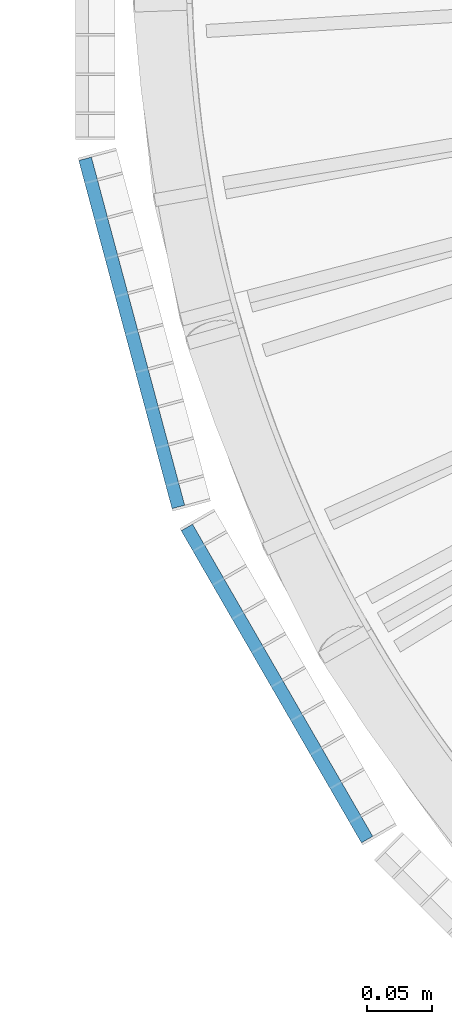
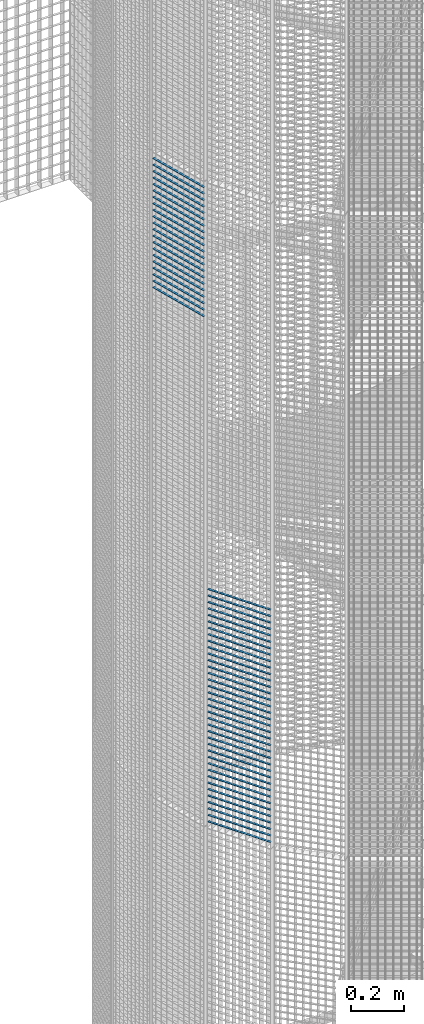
# One storey, part 127 of 1183: 58 beams, 2 elements without a shape of their own.
"""IFC2X3 building model written with IfcOpenShell, lengths in millimetres."""

from ifc_helpers import new_model, si_unit, frame, origin_with_axes, origin_2d_with_axis, place, context, subcontext, project, spatial, rectangle, extrude, material, type_object, element, aggregate, save


model = new_model("IFC2X3")

# Units and contexts
model_context = context("Model", 3, precision=1e-05, world=origin_with_axes())
body_context = subcontext(model_context, "Body", "Model", "MODEL_VIEW")
ifc_project = project(units=[si_unit("LENGTHUNIT", "METRE", prefix="MILLI"), si_unit("AREAUNIT", "SQUARE_METRE"), si_unit("VOLUMEUNIT", "CUBIC_METRE"), si_unit("MASSUNIT", "GRAM", prefix="KILO"), si_unit("TIMEUNIT", "SECOND"), si_unit("PLANEANGLEUNIT", "RADIAN"), si_unit("SOLIDANGLEUNIT", "STERADIAN"), si_unit("THERMODYNAMICTEMPERATUREUNIT", "DEGREE_CELSIUS"), si_unit("LUMINOUSINTENSITYUNIT", "LUMEN")], contexts=[model_context])

# Site, building, storey
site_placement = place(None, origin_with_axes())
site = spatial("IfcSite", under=ifc_project, at=site_placement, Name="Undefined", CompositionType="ELEMENT")
building_placement = place(site_placement, origin_with_axes())
building = spatial("IfcBuilding", under=site, at=building_placement, Name="Undefined", CompositionType="ELEMENT")
storey_placement = place(building_placement, origin_with_axes())
storey = spatial("IfcBuildingStorey", under=building, at=storey_placement, Name="Undefined", CompositionType="ELEMENT", Elevation=0.0)

# Assembly, beams
assembly_1_placement = place(storey_placement, origin_with_axes())
assembly_1 = element("IfcElementAssembly", 1, at=assembly_1_placement, inside=storey, Name="BORDURE", AssemblyPlace="NOTDEFINED", PredefinedType="NOTDEFINED")
ifc_material = material(Name="STEEL/S235JR")
beam_type = type_object("IfcBeamType", Name="PL2*10", PredefinedType="NOTDEFINED")
beam_1_placement = place(assembly_1_placement, frame((-1033.29996828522, -437.231955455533, 3720.0), z_axis=(-0.866025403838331, -0.499999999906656, 0.0), x_axis=(0.499999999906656, -0.866025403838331, 0.0)))
beam_1 = element("IfcBeam", 2, at=beam_1_placement, type_object=beam_type, material=ifc_material, Name="ENTRETOISE", context=body_context, shape_type="SweptSolid", body=[
    extrude(rectangle(XDim=2.0, YDim=10.0, at=origin_2d_with_axis()), frame((275.999999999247, 9.09494701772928e-13, 1.53210777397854e-14), z_axis=(-1.0, 0.0, 0.0), x_axis=(0.0, -1.0, 0.0)), (0.0, 0.0, 1.0), 276.0),
])
beam_2_placement = place(assembly_1_placement, frame((-1033.29996828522, -437.231955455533, 3690.0), z_axis=(-0.866025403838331, -0.499999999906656, 0.0), x_axis=(0.499999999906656, -0.866025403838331, 0.0)))
beam_2 = element("IfcBeam", 3, at=beam_2_placement, type_object=beam_type, material=ifc_material, Name="ENTRETOISE", context=body_context, shape_type="SweptSolid", body=[
    extrude(rectangle(XDim=2.0, YDim=10.0, at=origin_2d_with_axis()), frame((275.999999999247, 9.09494701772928e-13, 1.53210777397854e-14), z_axis=(-1.0, 0.0, 0.0), x_axis=(0.0, -1.0, 0.0)), (0.0, 0.0, 1.0), 276.0),
])
beam_3_placement = place(assembly_1_placement, frame((-1033.29996828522, -437.231955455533, 3750.0), z_axis=(-0.866025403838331, -0.499999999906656, 0.0), x_axis=(0.499999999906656, -0.866025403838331, 0.0)))
beam_3 = element("IfcBeam", 4, at=beam_3_placement, type_object=beam_type, material=ifc_material, Name="ENTRETOISE", context=body_context, shape_type="SweptSolid", body=[
    extrude(rectangle(XDim=2.0, YDim=10.0, at=origin_2d_with_axis()), frame((275.999999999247, 9.09494701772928e-13, 1.53210777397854e-14), z_axis=(-1.0, 0.0, 0.0), x_axis=(0.0, -1.0, 0.0)), (0.0, 0.0, 1.0), 276.0),
])
beam_4_placement = place(assembly_1_placement, frame((-1033.29996828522, -437.231955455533, 3660.0), z_axis=(-0.866025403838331, -0.499999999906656, 0.0), x_axis=(0.499999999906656, -0.866025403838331, 0.0)))
beam_4 = element("IfcBeam", 5, at=beam_4_placement, type_object=beam_type, material=ifc_material, Name="ENTRETOISE", context=body_context, shape_type="SweptSolid", body=[
    extrude(rectangle(XDim=2.0, YDim=10.0, at=origin_2d_with_axis()), frame((275.999999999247, 9.09494701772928e-13, 1.53210777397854e-14), z_axis=(-1.0, 0.0, 0.0), x_axis=(0.0, -1.0, 0.0)), (0.0, 0.0, 1.0), 276.0),
])
beam_5_placement = place(assembly_1_placement, frame((-1033.29996828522, -437.231955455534, 3630.0), z_axis=(-0.866025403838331, -0.499999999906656, 0.0), x_axis=(0.499999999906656, -0.866025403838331, 0.0)))
beam_5 = element("IfcBeam", 6, at=beam_5_placement, type_object=beam_type, material=ifc_material, Name="ENTRETOISE", context=body_context, shape_type="SweptSolid", body=[
    extrude(rectangle(XDim=2.0, YDim=10.0, at=origin_2d_with_axis()), frame((275.999999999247, 9.09494701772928e-13, 1.53210777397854e-14), z_axis=(-1.0, 0.0, 0.0), x_axis=(0.0, -1.0, 0.0)), (0.0, 0.0, 1.0), 276.0),
])
beam_6_placement = place(assembly_1_placement, frame((-1033.29996828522, -437.231955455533, 3780.0), z_axis=(-0.866025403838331, -0.499999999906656, 0.0), x_axis=(0.499999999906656, -0.866025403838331, 0.0)))
beam_6 = element("IfcBeam", 7, at=beam_6_placement, type_object=beam_type, material=ifc_material, Name="ENTRETOISE", context=body_context, shape_type="SweptSolid", body=[
    extrude(rectangle(XDim=2.0, YDim=10.0, at=origin_2d_with_axis()), frame((275.999999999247, 9.09494701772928e-13, 1.53210777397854e-14), z_axis=(-1.0, 0.0, 0.0), x_axis=(0.0, -1.0, 0.0)), (0.0, 0.0, 1.0), 276.0),
])
beam_7_placement = place(assembly_1_placement, frame((-1033.29996828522, -437.231955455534, 3600.0), z_axis=(-0.866025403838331, -0.499999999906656, 0.0), x_axis=(0.499999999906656, -0.866025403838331, 0.0)))
beam_7 = element("IfcBeam", 8, at=beam_7_placement, type_object=beam_type, material=ifc_material, Name="ENTRETOISE", context=body_context, shape_type="SweptSolid", body=[
    extrude(rectangle(XDim=2.0, YDim=10.0, at=origin_2d_with_axis()), frame((275.999999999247, 9.09494701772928e-13, 1.53210777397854e-14), z_axis=(-1.0, 0.0, 0.0), x_axis=(0.0, -1.0, 0.0)), (0.0, 0.0, 1.0), 276.0),
])
beam_8_placement = place(assembly_1_placement, frame((-1033.29996828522, -437.231955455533, 3810.0), z_axis=(-0.866025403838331, -0.499999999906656, 0.0), x_axis=(0.499999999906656, -0.866025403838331, 0.0)))
beam_8 = element("IfcBeam", 9, at=beam_8_placement, type_object=beam_type, material=ifc_material, Name="ENTRETOISE", context=body_context, shape_type="SweptSolid", body=[
    extrude(rectangle(XDim=2.0, YDim=10.0, at=origin_2d_with_axis()), frame((275.999999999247, 9.09494701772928e-13, 1.53210777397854e-14), z_axis=(-1.0, 0.0, 0.0), x_axis=(0.0, -1.0, 0.0)), (0.0, 0.0, 1.0), 276.0),
])
beam_9_placement = place(assembly_1_placement, frame((-1033.29996828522, -437.231955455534, 3570.0), z_axis=(-0.866025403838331, -0.499999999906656, 0.0), x_axis=(0.499999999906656, -0.866025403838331, 0.0)))
beam_9 = element("IfcBeam", 10, at=beam_9_placement, type_object=beam_type, material=ifc_material, Name="ENTRETOISE", context=body_context, shape_type="SweptSolid", body=[
    extrude(rectangle(XDim=2.0, YDim=10.0, at=origin_2d_with_axis()), frame((275.999999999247, 9.09494701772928e-13, 1.53210777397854e-14), z_axis=(-1.0, 0.0, 0.0), x_axis=(0.0, -1.0, 0.0)), (0.0, 0.0, 1.0), 276.0),
])
beam_10_placement = place(assembly_1_placement, frame((-1033.29996828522, -437.231955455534, 3540.0), z_axis=(-0.866025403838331, -0.499999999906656, 0.0), x_axis=(0.499999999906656, -0.866025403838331, 0.0)))
beam_10 = element("IfcBeam", 11, at=beam_10_placement, type_object=beam_type, material=ifc_material, Name="ENTRETOISE", context=body_context, shape_type="SweptSolid", body=[
    extrude(rectangle(XDim=2.0, YDim=10.0, at=origin_2d_with_axis()), frame((275.999999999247, 9.09494701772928e-13, 1.53210777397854e-14), z_axis=(-1.0, 0.0, 0.0), x_axis=(0.0, -1.0, 0.0)), (0.0, 0.0, 1.0), 276.0),
])
beam_11_placement = place(assembly_1_placement, frame((-1033.29996828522, -437.231955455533, 3840.0), z_axis=(-0.866025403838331, -0.499999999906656, 0.0), x_axis=(0.499999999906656, -0.866025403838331, 0.0)))
beam_11 = element("IfcBeam", 12, at=beam_11_placement, type_object=beam_type, material=ifc_material, Name="ENTRETOISE", context=body_context, shape_type="SweptSolid", body=[
    extrude(rectangle(XDim=2.0, YDim=10.0, at=origin_2d_with_axis()), frame((275.999999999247, 9.09494701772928e-13, 1.53210777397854e-14), z_axis=(-1.0, 0.0, 0.0), x_axis=(0.0, -1.0, 0.0)), (0.0, 0.0, 1.0), 276.0),
])
beam_12_placement = place(assembly_1_placement, frame((-1033.29996828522, -437.231955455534, 3510.0), z_axis=(-0.866025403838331, -0.499999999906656, 0.0), x_axis=(0.499999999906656, -0.866025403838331, 0.0)))
beam_12 = element("IfcBeam", 13, at=beam_12_placement, type_object=beam_type, material=ifc_material, Name="ENTRETOISE", context=body_context, shape_type="SweptSolid", body=[
    extrude(rectangle(XDim=2.0, YDim=10.0, at=origin_2d_with_axis()), frame((275.999999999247, 9.09494701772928e-13, 1.53210777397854e-14), z_axis=(-1.0, 0.0, 0.0), x_axis=(0.0, -1.0, 0.0)), (0.0, 0.0, 1.0), 276.0),
])
beam_13_placement = place(assembly_1_placement, frame((-1033.29996828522, -437.231955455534, 3480.0), z_axis=(-0.866025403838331, -0.499999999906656, 0.0), x_axis=(0.499999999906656, -0.866025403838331, 0.0)))
beam_13 = element("IfcBeam", 14, at=beam_13_placement, type_object=beam_type, material=ifc_material, Name="ENTRETOISE", context=body_context, shape_type="SweptSolid", body=[
    extrude(rectangle(XDim=2.0, YDim=10.0, at=origin_2d_with_axis()), frame((275.999999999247, 9.09494701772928e-13, 1.53210777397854e-14), z_axis=(-1.0, 0.0, 0.0), x_axis=(0.0, -1.0, 0.0)), (0.0, 0.0, 1.0), 276.0),
])
beam_14_placement = place(assembly_1_placement, frame((-1033.29996828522, -437.231955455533, 3870.0), z_axis=(-0.866025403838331, -0.499999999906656, 0.0), x_axis=(0.499999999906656, -0.866025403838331, 0.0)))
beam_14 = element("IfcBeam", 15, at=beam_14_placement, type_object=beam_type, material=ifc_material, Name="ENTRETOISE", context=body_context, shape_type="SweptSolid", body=[
    extrude(rectangle(XDim=2.0, YDim=10.0, at=origin_2d_with_axis()), frame((275.999999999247, 9.09494701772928e-13, 1.53210777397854e-14), z_axis=(-1.0, 0.0, 0.0), x_axis=(0.0, -1.0, 0.0)), (0.0, 0.0, 1.0), 276.0),
])
beam_15_placement = place(assembly_1_placement, frame((-1033.29996828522, -437.231955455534, 3450.0), z_axis=(-0.866025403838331, -0.499999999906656, 0.0), x_axis=(0.499999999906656, -0.866025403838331, 0.0)))
beam_15 = element("IfcBeam", 16, at=beam_15_placement, type_object=beam_type, material=ifc_material, Name="ENTRETOISE", context=body_context, shape_type="SweptSolid", body=[
    extrude(rectangle(XDim=2.0, YDim=10.0, at=origin_2d_with_axis()), frame((275.999999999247, 9.09494701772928e-13, 1.53210777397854e-14), z_axis=(-1.0, 0.0, 0.0), x_axis=(0.0, -1.0, 0.0)), (0.0, 0.0, 1.0), 276.0),
])
beam_16_placement = place(assembly_1_placement, frame((-1033.29996828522, -437.231955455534, 3420.0), z_axis=(-0.866025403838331, -0.499999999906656, 0.0), x_axis=(0.499999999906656, -0.866025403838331, 0.0)))
beam_16 = element("IfcBeam", 17, at=beam_16_placement, type_object=beam_type, material=ifc_material, Name="ENTRETOISE", context=body_context, shape_type="SweptSolid", body=[
    extrude(rectangle(XDim=2.0, YDim=10.0, at=origin_2d_with_axis()), frame((275.999999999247, 9.09494701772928e-13, 1.53210777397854e-14), z_axis=(-1.0, 0.0, 0.0), x_axis=(0.0, -1.0, 0.0)), (0.0, 0.0, 1.0), 276.0),
])
beam_17_placement = place(assembly_1_placement, frame((-1033.29996828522, -437.231955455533, 3900.0), z_axis=(-0.866025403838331, -0.499999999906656, 0.0), x_axis=(0.499999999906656, -0.866025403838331, 0.0)))
beam_17 = element("IfcBeam", 18, at=beam_17_placement, type_object=beam_type, material=ifc_material, Name="ENTRETOISE", context=body_context, shape_type="SweptSolid", body=[
    extrude(rectangle(XDim=2.0, YDim=10.0, at=origin_2d_with_axis()), frame((275.999999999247, 9.09494701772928e-13, 1.53210777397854e-14), z_axis=(-1.0, 0.0, 0.0), x_axis=(0.0, -1.0, 0.0)), (0.0, 0.0, 1.0), 276.0),
])
beam_18_placement = place(assembly_1_placement, frame((-1033.29996828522, -437.231955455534, 3390.0), z_axis=(-0.866025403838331, -0.499999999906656, 0.0), x_axis=(0.499999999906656, -0.866025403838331, 0.0)))
beam_18 = element("IfcBeam", 19, at=beam_18_placement, type_object=beam_type, material=ifc_material, Name="ENTRETOISE", context=body_context, shape_type="SweptSolid", body=[
    extrude(rectangle(XDim=2.0, YDim=10.0, at=origin_2d_with_axis()), frame((275.999999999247, 9.09494701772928e-13, 1.53210777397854e-14), z_axis=(-1.0, 0.0, 0.0), x_axis=(0.0, -1.0, 0.0)), (0.0, 0.0, 1.0), 276.0),
])
beam_19_placement = place(assembly_1_placement, frame((-1033.29996828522, -437.231955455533, 3930.0), z_axis=(-0.866025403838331, -0.499999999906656, 0.0), x_axis=(0.499999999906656, -0.866025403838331, 0.0)))
beam_19 = element("IfcBeam", 20, at=beam_19_placement, type_object=beam_type, material=ifc_material, Name="ENTRETOISE", context=body_context, shape_type="SweptSolid", body=[
    extrude(rectangle(XDim=2.0, YDim=10.0, at=origin_2d_with_axis()), frame((275.999999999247, 9.09494701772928e-13, 1.53210777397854e-14), z_axis=(-1.0, 0.0, 0.0), x_axis=(0.0, -1.0, 0.0)), (0.0, 0.0, 1.0), 276.0),
])
beam_20_placement = place(assembly_1_placement, frame((-1033.29996828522, -437.231955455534, 3360.0), z_axis=(-0.866025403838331, -0.499999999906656, 0.0), x_axis=(0.499999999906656, -0.866025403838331, 0.0)))
beam_20 = element("IfcBeam", 21, at=beam_20_placement, type_object=beam_type, material=ifc_material, Name="ENTRETOISE", context=body_context, shape_type="SweptSolid", body=[
    extrude(rectangle(XDim=2.0, YDim=10.0, at=origin_2d_with_axis()), frame((275.999999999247, 9.09494701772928e-13, 1.53210777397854e-14), z_axis=(-1.0, 0.0, 0.0), x_axis=(0.0, -1.0, 0.0)), (0.0, 0.0, 1.0), 276.0),
])
beam_21_placement = place(assembly_1_placement, frame((-1033.29996828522, -437.231955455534, 3330.0), z_axis=(-0.866025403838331, -0.499999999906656, 0.0), x_axis=(0.499999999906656, -0.866025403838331, 0.0)))
beam_21 = element("IfcBeam", 22, at=beam_21_placement, type_object=beam_type, material=ifc_material, Name="ENTRETOISE", context=body_context, shape_type="SweptSolid", body=[
    extrude(rectangle(XDim=2.0, YDim=10.0, at=origin_2d_with_axis()), frame((275.999999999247, 9.09494701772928e-13, 1.53210777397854e-14), z_axis=(-1.0, 0.0, 0.0), x_axis=(0.0, -1.0, 0.0)), (0.0, 0.0, 1.0), 276.0),
])
beam_22_placement = place(assembly_1_placement, frame((-1033.29996828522, -437.231955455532, 3960.0), z_axis=(-0.866025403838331, -0.499999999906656, 0.0), x_axis=(0.499999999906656, -0.866025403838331, 0.0)))
beam_22 = element("IfcBeam", 23, at=beam_22_placement, type_object=beam_type, material=ifc_material, Name="ENTRETOISE", context=body_context, shape_type="SweptSolid", body=[
    extrude(rectangle(XDim=2.0, YDim=10.0, at=origin_2d_with_axis()), frame((275.999999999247, 9.09494701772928e-13, 1.53210777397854e-14), z_axis=(-1.0, 0.0, 0.0), x_axis=(0.0, -1.0, 0.0)), (0.0, 0.0, 1.0), 276.0),
])
beam_23_placement = place(assembly_1_placement, frame((-1033.29996828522, -437.231955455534, 3300.0), z_axis=(-0.866025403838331, -0.499999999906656, 0.0), x_axis=(0.499999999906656, -0.866025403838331, 0.0)))
beam_23 = element("IfcBeam", 24, at=beam_23_placement, type_object=beam_type, material=ifc_material, Name="ENTRETOISE", context=body_context, shape_type="SweptSolid", body=[
    extrude(rectangle(XDim=2.0, YDim=10.0, at=origin_2d_with_axis()), frame((275.999999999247, 9.09494701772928e-13, 1.53210777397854e-14), z_axis=(-1.0, 0.0, 0.0), x_axis=(0.0, -1.0, 0.0)), (0.0, 0.0, 1.0), 276.0),
])
beam_24_placement = place(assembly_1_placement, frame((-1033.29996828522, -437.231955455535, 3270.0), z_axis=(-0.866025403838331, -0.499999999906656, 0.0), x_axis=(0.499999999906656, -0.866025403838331, 0.0)))
beam_24 = element("IfcBeam", 25, at=beam_24_placement, type_object=beam_type, material=ifc_material, Name="ENTRETOISE", context=body_context, shape_type="SweptSolid", body=[
    extrude(rectangle(XDim=2.0, YDim=10.0, at=origin_2d_with_axis()), frame((275.999999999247, 9.09494701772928e-13, 1.53210777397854e-14), z_axis=(-1.0, 0.0, 0.0), x_axis=(0.0, -1.0, 0.0)), (0.0, 0.0, 1.0), 276.0),
])
beam_25_placement = place(assembly_1_placement, frame((-1033.29996828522, -437.231955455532, 3990.0), z_axis=(-0.866025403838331, -0.499999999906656, 0.0), x_axis=(0.499999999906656, -0.866025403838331, 0.0)))
beam_25 = element("IfcBeam", 26, at=beam_25_placement, type_object=beam_type, material=ifc_material, Name="ENTRETOISE", context=body_context, shape_type="SweptSolid", body=[
    extrude(rectangle(XDim=2.0, YDim=10.0, at=origin_2d_with_axis()), frame((275.999999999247, 9.09494701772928e-13, 1.53210777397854e-14), z_axis=(-1.0, 0.0, 0.0), x_axis=(0.0, -1.0, 0.0)), (0.0, 0.0, 1.0), 276.0),
])
beam_26_placement = place(assembly_1_placement, frame((-1033.29996828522, -437.231955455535, 3240.0), z_axis=(-0.866025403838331, -0.499999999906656, 0.0), x_axis=(0.499999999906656, -0.866025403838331, 0.0)))
beam_26 = element("IfcBeam", 27, at=beam_26_placement, type_object=beam_type, material=ifc_material, Name="ENTRETOISE", context=body_context, shape_type="SweptSolid", body=[
    extrude(rectangle(XDim=2.0, YDim=10.0, at=origin_2d_with_axis()), frame((275.999999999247, 9.09494701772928e-13, 1.53210777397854e-14), z_axis=(-1.0, 0.0, 0.0), x_axis=(0.0, -1.0, 0.0)), (0.0, 0.0, 1.0), 276.0),
])
beam_27_placement = place(assembly_1_placement, frame((-1033.29996828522, -437.231955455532, 4020.0), z_axis=(-0.866025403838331, -0.499999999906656, 0.0), x_axis=(0.499999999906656, -0.866025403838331, 0.0)))
beam_27 = element("IfcBeam", 28, at=beam_27_placement, type_object=beam_type, material=ifc_material, Name="ENTRETOISE", context=body_context, shape_type="SweptSolid", body=[
    extrude(rectangle(XDim=2.0, YDim=10.0, at=origin_2d_with_axis()), frame((275.999999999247, 9.09494701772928e-13, 1.53210777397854e-14), z_axis=(-1.0, 0.0, 0.0), x_axis=(0.0, -1.0, 0.0)), (0.0, 0.0, 1.0), 276.0),
])
beam_28_placement = place(assembly_1_placement, frame((-1033.29996828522, -437.231955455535, 3210.0), z_axis=(-0.866025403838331, -0.499999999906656, 0.0), x_axis=(0.499999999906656, -0.866025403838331, 0.0)))
beam_28 = element("IfcBeam", 29, at=beam_28_placement, type_object=beam_type, material=ifc_material, Name="ENTRETOISE", context=body_context, shape_type="SweptSolid", body=[
    extrude(rectangle(XDim=2.0, YDim=10.0, at=origin_2d_with_axis()), frame((275.999999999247, 9.09494701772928e-13, 1.53210777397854e-14), z_axis=(-1.0, 0.0, 0.0), x_axis=(0.0, -1.0, 0.0)), (0.0, 0.0, 1.0), 276.0),
])
beam_29_placement = place(assembly_1_placement, frame((-1033.29996828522, -437.231955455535, 3180.0), z_axis=(-0.866025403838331, -0.499999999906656, 0.0), x_axis=(0.499999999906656, -0.866025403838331, 0.0)))
beam_29 = element("IfcBeam", 30, at=beam_29_placement, type_object=beam_type, material=ifc_material, Name="ENTRETOISE", context=body_context, shape_type="SweptSolid", body=[
    extrude(rectangle(XDim=2.0, YDim=10.0, at=origin_2d_with_axis()), frame((275.999999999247, 9.09494701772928e-13, 1.53210777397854e-14), z_axis=(-1.0, 0.0, 0.0), x_axis=(0.0, -1.0, 0.0)), (0.0, 0.0, 1.0), 276.0),
])
beam_30_placement = place(assembly_1_placement, frame((-1033.29996828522, -437.231955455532, 4050.0), z_axis=(-0.866025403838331, -0.499999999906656, 0.0), x_axis=(0.499999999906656, -0.866025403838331, 0.0)))
beam_30 = element("IfcBeam", 31, at=beam_30_placement, type_object=beam_type, material=ifc_material, Name="ENTRETOISE", context=body_context, shape_type="SweptSolid", body=[
    extrude(rectangle(XDim=2.0, YDim=10.0, at=origin_2d_with_axis()), frame((275.999999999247, 9.09494701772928e-13, 1.53210777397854e-14), z_axis=(-1.0, 0.0, 0.0), x_axis=(0.0, -1.0, 0.0)), (0.0, 0.0, 1.0), 276.0),
])
beam_31_placement = place(assembly_1_placement, frame((-1033.29996828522, -437.231955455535, 3150.0), z_axis=(-0.866025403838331, -0.499999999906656, 0.0), x_axis=(0.499999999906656, -0.866025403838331, 0.0)))
beam_31 = element("IfcBeam", 32, at=beam_31_placement, type_object=beam_type, material=ifc_material, Name="ENTRETOISE", context=body_context, shape_type="SweptSolid", body=[
    extrude(rectangle(XDim=2.0, YDim=10.0, at=origin_2d_with_axis()), frame((275.999999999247, 9.09494701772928e-13, 1.53210777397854e-14), z_axis=(-1.0, 0.0, 0.0), x_axis=(0.0, -1.0, 0.0)), (0.0, 0.0, 1.0), 276.0),
])
beam_32_placement = place(assembly_1_placement, frame((-1033.29996828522, -437.231955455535, 3120.0), z_axis=(-0.866025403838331, -0.499999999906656, 0.0), x_axis=(0.499999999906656, -0.866025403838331, 0.0)))
beam_32 = element("IfcBeam", 33, at=beam_32_placement, type_object=beam_type, material=ifc_material, Name="ENTRETOISE", context=body_context, shape_type="SweptSolid", body=[
    extrude(rectangle(XDim=2.0, YDim=10.0, at=origin_2d_with_axis()), frame((275.999999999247, 9.09494701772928e-13, 1.53210777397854e-14), z_axis=(-1.0, 0.0, 0.0), x_axis=(0.0, -1.0, 0.0)), (0.0, 0.0, 1.0), 276.0),
])
beam_33_placement = place(assembly_1_placement, frame((-1033.29996828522, -437.231955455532, 4080.0), z_axis=(-0.866025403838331, -0.499999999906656, 0.0), x_axis=(0.499999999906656, -0.866025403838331, 0.0)))
beam_33 = element("IfcBeam", 34, at=beam_33_placement, type_object=beam_type, material=ifc_material, Name="ENTRETOISE", context=body_context, shape_type="SweptSolid", body=[
    extrude(rectangle(XDim=2.0, YDim=10.0, at=origin_2d_with_axis()), frame((275.999999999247, 9.09494701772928e-13, 1.53210777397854e-14), z_axis=(-1.0, 0.0, 0.0), x_axis=(0.0, -1.0, 0.0)), (0.0, 0.0, 1.0), 276.0),
])
beam_34_placement = place(assembly_1_placement, frame((-1033.29996828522, -437.231955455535, 3090.0), z_axis=(-0.866025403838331, -0.499999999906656, 0.0), x_axis=(0.499999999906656, -0.866025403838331, 0.0)))
beam_34 = element("IfcBeam", 35, at=beam_34_placement, type_object=beam_type, material=ifc_material, Name="ENTRETOISE", context=body_context, shape_type="SweptSolid", body=[
    extrude(rectangle(XDim=2.0, YDim=10.0, at=origin_2d_with_axis()), frame((275.999999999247, 9.09494701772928e-13, 1.53210777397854e-14), z_axis=(-1.0, 0.0, 0.0), x_axis=(0.0, -1.0, 0.0)), (0.0, 0.0, 1.0), 276.0),
])
beam_35_placement = place(assembly_1_placement, frame((-1033.29996828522, -437.231955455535, 3060.0), z_axis=(-0.866025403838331, -0.499999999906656, 0.0), x_axis=(0.499999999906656, -0.866025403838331, 0.0)))
beam_35 = element("IfcBeam", 36, at=beam_35_placement, type_object=beam_type, material=ifc_material, Name="ENTRETOISE", context=body_context, shape_type="SweptSolid", body=[
    extrude(rectangle(XDim=2.0, YDim=10.0, at=origin_2d_with_axis()), frame((275.999999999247, 9.09494701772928e-13, 1.53210777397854e-14), z_axis=(-1.0, 0.0, 0.0), x_axis=(0.0, -1.0, 0.0)), (0.0, 0.0, 1.0), 276.0),
])
beam_36_placement = place(assembly_1_placement, frame((-1033.29996828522, -437.231955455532, 4110.0), z_axis=(-0.866025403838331, -0.499999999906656, 0.0), x_axis=(0.499999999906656, -0.866025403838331, 0.0)))
beam_36 = element("IfcBeam", 37, at=beam_36_placement, type_object=beam_type, material=ifc_material, Name="ENTRETOISE", context=body_context, shape_type="SweptSolid", body=[
    extrude(rectangle(XDim=2.0, YDim=10.0, at=origin_2d_with_axis()), frame((275.999999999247, 9.09494701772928e-13, 1.53210777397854e-14), z_axis=(-1.0, 0.0, 0.0), x_axis=(0.0, -1.0, 0.0)), (0.0, 0.0, 1.0), 276.0),
])
beam_37_placement = place(assembly_1_placement, frame((-1033.29996828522, -437.231955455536, 3030.0), z_axis=(-0.866025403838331, -0.499999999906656, 0.0), x_axis=(0.499999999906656, -0.866025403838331, 0.0)))
beam_37 = element("IfcBeam", 38, at=beam_37_placement, type_object=beam_type, material=ifc_material, Name="ENTRETOISE", context=body_context, shape_type="SweptSolid", body=[
    extrude(rectangle(XDim=2.0, YDim=10.0, at=origin_2d_with_axis()), frame((275.999999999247, 9.09494701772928e-13, 1.53210777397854e-14), z_axis=(-1.0, 0.0, 0.0), x_axis=(0.0, -1.0, 0.0)), (0.0, 0.0, 1.0), 276.0),
])
aggregate(assembly_1, [beam_1, beam_2, beam_3, beam_4, beam_5, beam_6, beam_7, beam_8, beam_9, beam_10, beam_11, beam_12, beam_13, beam_14, beam_15, beam_16, beam_17, beam_18, beam_19, beam_20, beam_21, beam_22, beam_23, beam_24, beam_25, beam_26, beam_27, beam_28, beam_29, beam_30, beam_31, beam_32, beam_33, beam_34, beam_35, beam_36, beam_37])

assembly_2_placement = place(storey_placement, origin_with_axes())
assembly_2 = element("IfcElementAssembly", 39, at=assembly_2_placement, inside=storey, Name="BORDURE", AssemblyPlace="NOTDEFINED", PredefinedType="NOTDEFINED")
beam_38_placement = place(assembly_2_placement, frame((-1111.25508286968, -154.895926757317, 5970.0), z_axis=(-0.965925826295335, -0.258819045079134, 0.0), x_axis=(0.258819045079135, -0.965925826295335, 0.0)))
beam_38 = element("IfcBeam", 40, at=beam_38_placement, type_object=beam_type, material=ifc_material, Name="ENTRETOISE", context=body_context, shape_type="SweptSolid", body=[
    extrude(rectangle(XDim=2.0, YDim=10.0, at=origin_2d_with_axis()), frame((275.999999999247, 9.09494701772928e-13, 1.53210777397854e-14), z_axis=(-1.0, 0.0, 0.0), x_axis=(0.0, -1.0, 0.0)), (0.0, 0.0, 1.0), 276.0),
])
beam_39_placement = place(assembly_2_placement, frame((-1111.25508286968, -154.895926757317, 5940.0), z_axis=(-0.965925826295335, -0.258819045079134, 0.0), x_axis=(0.258819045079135, -0.965925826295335, 0.0)))
beam_39 = element("IfcBeam", 41, at=beam_39_placement, type_object=beam_type, material=ifc_material, Name="ENTRETOISE", context=body_context, shape_type="SweptSolid", body=[
    extrude(rectangle(XDim=2.0, YDim=10.0, at=origin_2d_with_axis()), frame((275.999999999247, 9.09494701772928e-13, 1.53210777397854e-14), z_axis=(-1.0, 0.0, 0.0), x_axis=(0.0, -1.0, 0.0)), (0.0, 0.0, 1.0), 276.0),
])
beam_40_placement = place(assembly_2_placement, frame((-1111.25508286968, -154.895926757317, 5910.0), z_axis=(-0.965925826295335, -0.258819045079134, 0.0), x_axis=(0.258819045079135, -0.965925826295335, 0.0)))
beam_40 = element("IfcBeam", 42, at=beam_40_placement, type_object=beam_type, material=ifc_material, Name="ENTRETOISE", context=body_context, shape_type="SweptSolid", body=[
    extrude(rectangle(XDim=2.0, YDim=10.0, at=origin_2d_with_axis()), frame((275.999999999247, 9.09494701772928e-13, 1.53210777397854e-14), z_axis=(-1.0, 0.0, 0.0), x_axis=(0.0, -1.0, 0.0)), (0.0, 0.0, 1.0), 276.0),
])
beam_41_placement = place(assembly_2_placement, frame((-1111.25508286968, -154.895926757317, 5880.0), z_axis=(-0.965925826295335, -0.258819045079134, 0.0), x_axis=(0.258819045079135, -0.965925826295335, 0.0)))
beam_41 = element("IfcBeam", 43, at=beam_41_placement, type_object=beam_type, material=ifc_material, Name="ENTRETOISE", context=body_context, shape_type="SweptSolid", body=[
    extrude(rectangle(XDim=2.0, YDim=10.0, at=origin_2d_with_axis()), frame((275.999999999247, 9.09494701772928e-13, 1.53210777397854e-14), z_axis=(-1.0, 0.0, 0.0), x_axis=(0.0, -1.0, 0.0)), (0.0, 0.0, 1.0), 276.0),
])
beam_42_placement = place(assembly_2_placement, frame((-1111.25508286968, -154.895926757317, 5850.0), z_axis=(-0.965925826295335, -0.258819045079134, 0.0), x_axis=(0.258819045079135, -0.965925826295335, 0.0)))
beam_42 = element("IfcBeam", 44, at=beam_42_placement, type_object=beam_type, material=ifc_material, Name="ENTRETOISE", context=body_context, shape_type="SweptSolid", body=[
    extrude(rectangle(XDim=2.0, YDim=10.0, at=origin_2d_with_axis()), frame((275.999999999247, 9.09494701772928e-13, 1.53210777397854e-14), z_axis=(-1.0, 0.0, 0.0), x_axis=(0.0, -1.0, 0.0)), (0.0, 0.0, 1.0), 276.0),
])
beam_43_placement = place(assembly_2_placement, frame((-1111.25508286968, -154.895926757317, 5820.0), z_axis=(-0.965925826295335, -0.258819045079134, 0.0), x_axis=(0.258819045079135, -0.965925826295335, 0.0)))
beam_43 = element("IfcBeam", 45, at=beam_43_placement, type_object=beam_type, material=ifc_material, Name="ENTRETOISE", context=body_context, shape_type="SweptSolid", body=[
    extrude(rectangle(XDim=2.0, YDim=10.0, at=origin_2d_with_axis()), frame((275.999999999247, 9.09494701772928e-13, 1.53210777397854e-14), z_axis=(-1.0, 0.0, 0.0), x_axis=(0.0, -1.0, 0.0)), (0.0, 0.0, 1.0), 276.0),
])
beam_44_placement = place(assembly_2_placement, frame((-1111.25508286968, -154.895926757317, 5790.0), z_axis=(-0.965925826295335, -0.258819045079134, 0.0), x_axis=(0.258819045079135, -0.965925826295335, 0.0)))
beam_44 = element("IfcBeam", 46, at=beam_44_placement, type_object=beam_type, material=ifc_material, Name="ENTRETOISE", context=body_context, shape_type="SweptSolid", body=[
    extrude(rectangle(XDim=2.0, YDim=10.0, at=origin_2d_with_axis()), frame((275.999999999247, 9.09494701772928e-13, 1.53210777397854e-14), z_axis=(-1.0, 0.0, 0.0), x_axis=(0.0, -1.0, 0.0)), (0.0, 0.0, 1.0), 276.0),
])
beam_45_placement = place(assembly_2_placement, frame((-1111.25508286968, -154.895926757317, 5760.0), z_axis=(-0.965925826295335, -0.258819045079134, 0.0), x_axis=(0.258819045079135, -0.965925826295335, 0.0)))
beam_45 = element("IfcBeam", 47, at=beam_45_placement, type_object=beam_type, material=ifc_material, Name="ENTRETOISE", context=body_context, shape_type="SweptSolid", body=[
    extrude(rectangle(XDim=2.0, YDim=10.0, at=origin_2d_with_axis()), frame((275.999999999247, 9.09494701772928e-13, 1.53210777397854e-14), z_axis=(-1.0, 0.0, 0.0), x_axis=(0.0, -1.0, 0.0)), (0.0, 0.0, 1.0), 276.0),
])
beam_46_placement = place(assembly_2_placement, frame((-1111.25508286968, -154.895926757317, 5730.0), z_axis=(-0.965925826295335, -0.258819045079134, 0.0), x_axis=(0.258819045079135, -0.965925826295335, 0.0)))
beam_46 = element("IfcBeam", 48, at=beam_46_placement, type_object=beam_type, material=ifc_material, Name="ENTRETOISE", context=body_context, shape_type="SweptSolid", body=[
    extrude(rectangle(XDim=2.0, YDim=10.0, at=origin_2d_with_axis()), frame((275.999999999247, 9.09494701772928e-13, 1.53210777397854e-14), z_axis=(-1.0, 0.0, 0.0), x_axis=(0.0, -1.0, 0.0)), (0.0, 0.0, 1.0), 276.0),
])
beam_47_placement = place(assembly_2_placement, frame((-1111.25508286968, -154.895926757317, 5700.0), z_axis=(-0.965925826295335, -0.258819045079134, 0.0), x_axis=(0.258819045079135, -0.965925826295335, 0.0)))
beam_47 = element("IfcBeam", 49, at=beam_47_placement, type_object=beam_type, material=ifc_material, Name="ENTRETOISE", context=body_context, shape_type="SweptSolid", body=[
    extrude(rectangle(XDim=2.0, YDim=10.0, at=origin_2d_with_axis()), frame((275.999999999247, 9.09494701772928e-13, 1.53210777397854e-14), z_axis=(-1.0, 0.0, 0.0), x_axis=(0.0, -1.0, 0.0)), (0.0, 0.0, 1.0), 276.0),
])
beam_48_placement = place(assembly_2_placement, frame((-1111.25508286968, -154.895926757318, 5670.0), z_axis=(-0.965925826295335, -0.258819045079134, 0.0), x_axis=(0.258819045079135, -0.965925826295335, 0.0)))
beam_48 = element("IfcBeam", 50, at=beam_48_placement, type_object=beam_type, material=ifc_material, Name="ENTRETOISE", context=body_context, shape_type="SweptSolid", body=[
    extrude(rectangle(XDim=2.0, YDim=10.0, at=origin_2d_with_axis()), frame((275.999999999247, 9.09494701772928e-13, 1.53210777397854e-14), z_axis=(-1.0, 0.0, 0.0), x_axis=(0.0, -1.0, 0.0)), (0.0, 0.0, 1.0), 276.0),
])
beam_49_placement = place(assembly_2_placement, frame((-1111.25508286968, -154.895926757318, 5640.0), z_axis=(-0.965925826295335, -0.258819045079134, 0.0), x_axis=(0.258819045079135, -0.965925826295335, 0.0)))
beam_49 = element("IfcBeam", 51, at=beam_49_placement, type_object=beam_type, material=ifc_material, Name="ENTRETOISE", context=body_context, shape_type="SweptSolid", body=[
    extrude(rectangle(XDim=2.0, YDim=10.0, at=origin_2d_with_axis()), frame((275.999999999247, 9.09494701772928e-13, 1.53210777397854e-14), z_axis=(-1.0, 0.0, 0.0), x_axis=(0.0, -1.0, 0.0)), (0.0, 0.0, 1.0), 276.0),
])
beam_50_placement = place(assembly_2_placement, frame((-1111.25508286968, -154.895926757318, 5610.0), z_axis=(-0.965925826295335, -0.258819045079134, 0.0), x_axis=(0.258819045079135, -0.965925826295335, 0.0)))
beam_50 = element("IfcBeam", 52, at=beam_50_placement, type_object=beam_type, material=ifc_material, Name="ENTRETOISE", context=body_context, shape_type="SweptSolid", body=[
    extrude(rectangle(XDim=2.0, YDim=10.0, at=origin_2d_with_axis()), frame((275.999999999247, 9.09494701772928e-13, 1.53210777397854e-14), z_axis=(-1.0, 0.0, 0.0), x_axis=(0.0, -1.0, 0.0)), (0.0, 0.0, 1.0), 276.0),
])
beam_51_placement = place(assembly_2_placement, frame((-1111.25508286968, -154.895926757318, 5580.0), z_axis=(-0.965925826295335, -0.258819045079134, 0.0), x_axis=(0.258819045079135, -0.965925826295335, 0.0)))
beam_51 = element("IfcBeam", 53, at=beam_51_placement, type_object=beam_type, material=ifc_material, Name="ENTRETOISE", context=body_context, shape_type="SweptSolid", body=[
    extrude(rectangle(XDim=2.0, YDim=10.0, at=origin_2d_with_axis()), frame((275.999999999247, 9.09494701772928e-13, 1.53210777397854e-14), z_axis=(-1.0, 0.0, 0.0), x_axis=(0.0, -1.0, 0.0)), (0.0, 0.0, 1.0), 276.0),
])
beam_52_placement = place(assembly_2_placement, frame((-1111.25508286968, -154.895926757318, 5550.0), z_axis=(-0.965925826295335, -0.258819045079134, 0.0), x_axis=(0.258819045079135, -0.965925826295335, 0.0)))
beam_52 = element("IfcBeam", 54, at=beam_52_placement, type_object=beam_type, material=ifc_material, Name="ENTRETOISE", context=body_context, shape_type="SweptSolid", body=[
    extrude(rectangle(XDim=2.0, YDim=10.0, at=origin_2d_with_axis()), frame((275.999999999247, 9.09494701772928e-13, 1.53210777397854e-14), z_axis=(-1.0, 0.0, 0.0), x_axis=(0.0, -1.0, 0.0)), (0.0, 0.0, 1.0), 276.0),
])
beam_53_placement = place(assembly_2_placement, frame((-1111.25508286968, -154.895926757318, 5520.0), z_axis=(-0.965925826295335, -0.258819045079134, 0.0), x_axis=(0.258819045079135, -0.965925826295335, 0.0)))
beam_53 = element("IfcBeam", 55, at=beam_53_placement, type_object=beam_type, material=ifc_material, Name="ENTRETOISE", context=body_context, shape_type="SweptSolid", body=[
    extrude(rectangle(XDim=2.0, YDim=10.0, at=origin_2d_with_axis()), frame((275.999999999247, 9.09494701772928e-13, 1.53210777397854e-14), z_axis=(-1.0, 0.0, 0.0), x_axis=(0.0, -1.0, 0.0)), (0.0, 0.0, 1.0), 276.0),
])
beam_54_placement = place(assembly_2_placement, frame((-1111.25508286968, -154.895926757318, 5490.0), z_axis=(-0.965925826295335, -0.258819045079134, 0.0), x_axis=(0.258819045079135, -0.965925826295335, 0.0)))
beam_54 = element("IfcBeam", 56, at=beam_54_placement, type_object=beam_type, material=ifc_material, Name="ENTRETOISE", context=body_context, shape_type="SweptSolid", body=[
    extrude(rectangle(XDim=2.0, YDim=10.0, at=origin_2d_with_axis()), frame((275.999999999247, 9.09494701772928e-13, 1.53210777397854e-14), z_axis=(-1.0, 0.0, 0.0), x_axis=(0.0, -1.0, 0.0)), (0.0, 0.0, 1.0), 276.0),
])
beam_55_placement = place(assembly_2_placement, frame((-1111.25508286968, -154.895926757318, 5460.0), z_axis=(-0.965925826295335, -0.258819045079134, 0.0), x_axis=(0.258819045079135, -0.965925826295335, 0.0)))
beam_55 = element("IfcBeam", 57, at=beam_55_placement, type_object=beam_type, material=ifc_material, Name="ENTRETOISE", context=body_context, shape_type="SweptSolid", body=[
    extrude(rectangle(XDim=2.0, YDim=10.0, at=origin_2d_with_axis()), frame((275.999999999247, 9.09494701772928e-13, 1.53210777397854e-14), z_axis=(-1.0, 0.0, 0.0), x_axis=(0.0, -1.0, 0.0)), (0.0, 0.0, 1.0), 276.0),
])
beam_56_placement = place(assembly_2_placement, frame((-1111.25508286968, -154.895926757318, 5430.0), z_axis=(-0.965925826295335, -0.258819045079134, 0.0), x_axis=(0.258819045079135, -0.965925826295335, 0.0)))
beam_56 = element("IfcBeam", 58, at=beam_56_placement, type_object=beam_type, material=ifc_material, Name="ENTRETOISE", context=body_context, shape_type="SweptSolid", body=[
    extrude(rectangle(XDim=2.0, YDim=10.0, at=origin_2d_with_axis()), frame((275.999999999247, 9.09494701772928e-13, 1.53210777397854e-14), z_axis=(-1.0, 0.0, 0.0), x_axis=(0.0, -1.0, 0.0)), (0.0, 0.0, 1.0), 276.0),
])
beam_57_placement = place(assembly_2_placement, frame((-1111.25508286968, -154.895926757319, 5400.0), z_axis=(-0.965925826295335, -0.258819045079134, 0.0), x_axis=(0.258819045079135, -0.965925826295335, 0.0)))
beam_57 = element("IfcBeam", 59, at=beam_57_placement, type_object=beam_type, material=ifc_material, Name="ENTRETOISE", context=body_context, shape_type="SweptSolid", body=[
    extrude(rectangle(XDim=2.0, YDim=10.0, at=origin_2d_with_axis()), frame((275.999999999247, 9.09494701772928e-13, 1.53210777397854e-14), z_axis=(-1.0, 0.0, 0.0), x_axis=(0.0, -1.0, 0.0)), (0.0, 0.0, 1.0), 276.0),
])
beam_58_placement = place(assembly_2_placement, frame((-1111.25508286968, -154.895926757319, 5370.0), z_axis=(-0.965925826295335, -0.258819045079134, 0.0), x_axis=(0.258819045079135, -0.965925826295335, 0.0)))
beam_58 = element("IfcBeam", 60, at=beam_58_placement, type_object=beam_type, material=ifc_material, Name="ENTRETOISE", context=body_context, shape_type="SweptSolid", body=[
    extrude(rectangle(XDim=2.0, YDim=10.0, at=origin_2d_with_axis()), frame((275.999999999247, 9.09494701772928e-13, 1.53210777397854e-14), z_axis=(-1.0, 0.0, 0.0), x_axis=(0.0, -1.0, 0.0)), (0.0, 0.0, 1.0), 276.0),
])
aggregate(assembly_2, [beam_38, beam_39, beam_40, beam_41, beam_42, beam_43, beam_44, beam_45, beam_46, beam_47, beam_48, beam_49, beam_50, beam_51, beam_52, beam_53, beam_54, beam_55, beam_56, beam_57, beam_58])

save(model, "model.ifc")
